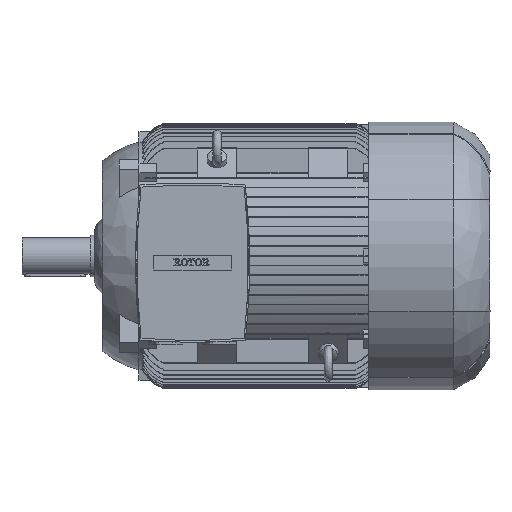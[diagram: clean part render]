
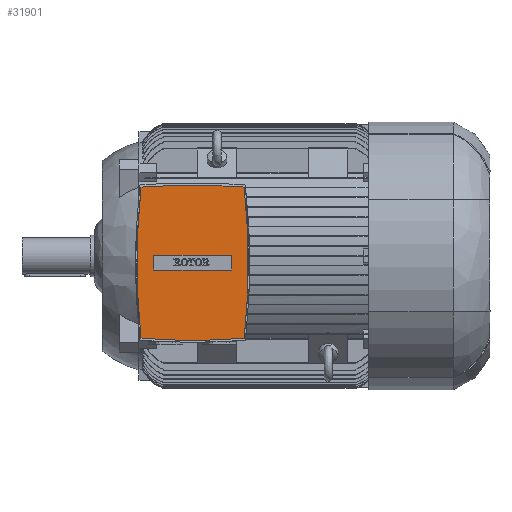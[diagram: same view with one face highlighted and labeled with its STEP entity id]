
A CAD part, top view. The second image highlights one B-rep face of the part: STEP entity #31901.
In plain terms, the highlighted planar face has unit normal (0, 0, 1).
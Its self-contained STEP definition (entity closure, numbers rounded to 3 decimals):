
#5337 = EDGE_CURVE ( 'NONE', #21340, #21316, #40305, .T. ) ;
#5472 = EDGE_CURVE ( 'NONE', #21316, #21313, #40496, .T. ) ;
#5473 = EDGE_CURVE ( 'NONE', #21313, #21307, #40491, .T. ) ;
#5474 = EDGE_CURVE ( 'NONE', #21307, #21340, #40498, .T. ) ;
#5475 = EDGE_CURVE ( 'NONE', #21306, #21344, #40500, .T. ) ;
#5571 = EDGE_CURVE ( 'NONE', #21292, #21375, #40646, .T. ) ;
#5605 = EDGE_CURVE ( 'NONE', #21344, #21292, #51350, .T. ) ;
#5616 = EDGE_CURVE ( 'NONE', #21375, #21306, #51362, .T. ) ;
#18624 = CARTESIAN_POINT ( 'NONE',  ( 30., -29.5, 433. ) ) ;
#18638 = CARTESIAN_POINT ( 'NONE',  ( 190., 0.5, 433. ) ) ;
#18639 = CARTESIAN_POINT ( 'NONE',  ( 4.096, 140.6, 433. ) ) ;
#18645 = CARTESIAN_POINT ( 'NONE',  ( 4.096, -169.6, 433. ) ) ;
#18648 = CARTESIAN_POINT ( 'NONE',  ( 215.904, -169.6, 433. ) ) ;
#18672 = CARTESIAN_POINT ( 'NONE',  ( 215.904, 140.6, 433. ) ) ;
#18676 = CARTESIAN_POINT ( 'NONE',  ( 190., -29.5, 433. ) ) ;
#18707 = CARTESIAN_POINT ( 'NONE',  ( 30., 0.5, 433. ) ) ;
#21292 = VERTEX_POINT ( 'NONE', #18624 ) ;
#21306 = VERTEX_POINT ( 'NONE', #18638 ) ;
#21307 = VERTEX_POINT ( 'NONE', #18639 ) ;
#21313 = VERTEX_POINT ( 'NONE', #18645 ) ;
#21316 = VERTEX_POINT ( 'NONE', #18648 ) ;
#21340 = VERTEX_POINT ( 'NONE', #18672 ) ;
#21344 = VERTEX_POINT ( 'NONE', #18676 ) ;
#21375 = VERTEX_POINT ( 'NONE', #18707 ) ;
#30335 = AXIS2_PLACEMENT_3D ( 'NONE', #32057, #32060, #32062 ) ;
#31901 = ADVANCED_FACE ( 'NONE', ( #38618, #38627 ), #32042, .T. ) ;
#32042 = PLANE ( 'NONE',  #30335 ) ;
#32057 = CARTESIAN_POINT ( 'NONE',  ( 110., -14.5, 433. ) ) ;
#32060 = DIRECTION ( 'NONE',  ( 0., 0., 1. ) ) ;
#32062 = DIRECTION ( 'NONE',  ( 1., 0., 0. ) ) ;
#34248 = ORIENTED_EDGE ( 'NONE', *, *, #5605, .T. ) ;
#34250 = ORIENTED_EDGE ( 'NONE', *, *, #5571, .T. ) ;
#34287 = ORIENTED_EDGE ( 'NONE', *, *, #5474, .F. ) ;
#34290 = ORIENTED_EDGE ( 'NONE', *, *, #5473, .F. ) ;
#34292 = ORIENTED_EDGE ( 'NONE', *, *, #5472, .F. ) ;
#34293 = ORIENTED_EDGE ( 'NONE', *, *, #5337, .F. ) ;
#34295 = ORIENTED_EDGE ( 'NONE', *, *, #5616, .T. ) ;
#34297 = ORIENTED_EDGE ( 'NONE', *, *, #5475, .T. ) ;
#34662 = EDGE_LOOP ( 'NONE', ( #34287, #34290, #34292, #34293 ) ) ;
#34672 = EDGE_LOOP ( 'NONE', ( #34295, #34297, #34248, #34250 ) ) ;
#38618 = FACE_OUTER_BOUND ( 'NONE', #34662, .T. ) ;
#38627 = FACE_BOUND ( 'NONE', #34672, .T. ) ;
#38654 = AXIS2_PLACEMENT_3D ( 'NONE', #44693, #44694, #44695 ) ;
#38695 = AXIS2_PLACEMENT_3D ( 'NONE', #50540, #50541, #50542 ) ;
#38696 = AXIS2_PLACEMENT_3D ( 'NONE', #50544, #50545, #50546 ) ;
#38697 = AXIS2_PLACEMENT_3D ( 'NONE', #50549, #50550, #50551 ) ;
#40305 = CIRCLE ( 'NONE', #38654, 1403.6 ) ;
#40491 = CIRCLE ( 'NONE', #38696, 1403.6 ) ;
#40496 = CIRCLE ( 'NONE', #38695, 1439.94 ) ;
#40498 = CIRCLE ( 'NONE', #38697, 1439.94 ) ;
#40500 = LINE ( 'NONE', #50534, #40502 ) ;
#40502 = VECTOR ( 'NONE', #50543, 1000. ) ;
#40646 = LINE ( 'NONE', #50978, #40648 ) ;
#40648 = VECTOR ( 'NONE', #50979, 1000. ) ;
#44693 = CARTESIAN_POINT ( 'NONE',  ( -1179.1, -14.5, 433. ) ) ;
#44694 = DIRECTION ( 'NONE',  ( 0., 0., -1. ) ) ;
#44695 = DIRECTION ( 'NONE',  ( -1., 0., 0. ) ) ;
#50534 = CARTESIAN_POINT ( 'NONE',  ( 190., -14.5, 433. ) ) ;
#50540 = CARTESIAN_POINT ( 'NONE',  ( 110., 1266.44, 433. ) ) ;
#50541 = DIRECTION ( 'NONE',  ( 0., 0., -1. ) ) ;
#50542 = DIRECTION ( 'NONE',  ( -1., 0., 0. ) ) ;
#50543 = DIRECTION ( 'NONE',  ( 0., -1., 0. ) ) ;
#50544 = CARTESIAN_POINT ( 'NONE',  ( 1399.1, -14.5, 433. ) ) ;
#50545 = DIRECTION ( 'NONE',  ( 0., 0., -1. ) ) ;
#50546 = DIRECTION ( 'NONE',  ( -1., 0., 0. ) ) ;
#50549 = CARTESIAN_POINT ( 'NONE',  ( 110., -1295.44, 433. ) ) ;
#50550 = DIRECTION ( 'NONE',  ( 0., 0., -1. ) ) ;
#50551 = DIRECTION ( 'NONE',  ( -1., 0., 0. ) ) ;
#50978 = CARTESIAN_POINT ( 'NONE',  ( 30., -14.5, 433. ) ) ;
#50979 = DIRECTION ( 'NONE',  ( 0., 1., 0. ) ) ;
#51110 = DIRECTION ( 'NONE',  ( -1., 0., 0. ) ) ;
#51113 = CARTESIAN_POINT ( 'NONE',  ( 110., -29.5, 433. ) ) ;
#51228 = CARTESIAN_POINT ( 'NONE',  ( 110., 0.5, 433. ) ) ;
#51279 = DIRECTION ( 'NONE',  ( 1., 0., 0. ) ) ;
#51350 = LINE ( 'NONE', #51113, #51352 ) ;
#51352 = VECTOR ( 'NONE', #51110, 1000. ) ;
#51362 = LINE ( 'NONE', #51228, #51364 ) ;
#51364 = VECTOR ( 'NONE', #51279, 1000. ) ;
